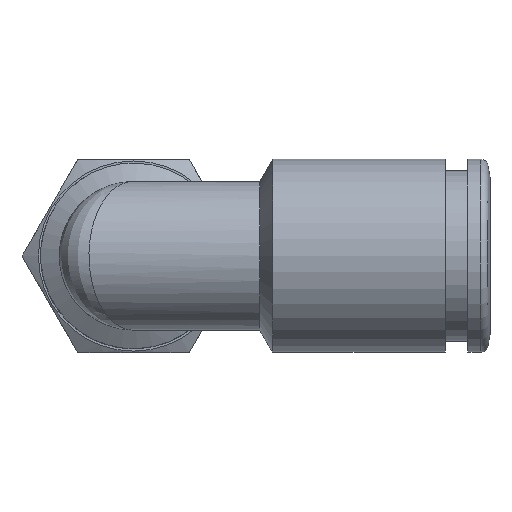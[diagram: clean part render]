
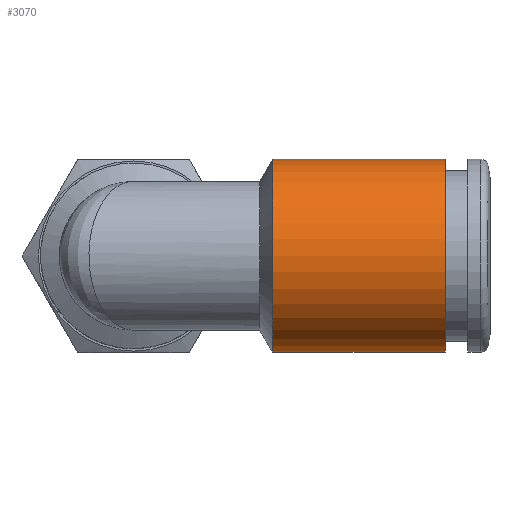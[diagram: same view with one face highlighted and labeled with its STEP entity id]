
A CAD part, top view. The second image highlights one B-rep face of the part: STEP entity #3070.
In plain terms, the highlighted cylindrical face has radius 6.5 mm (diameter 13 mm), a full revolution.
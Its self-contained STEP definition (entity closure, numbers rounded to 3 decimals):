
#3070=ADVANCED_FACE('', (#3080,#3090), #3100, .T.);
#8610=AXIS2_PLACEMENT_3D('Ax2Pl3d', #8620, #8630, #8640);
#9570=AXIS2_PLACEMENT_3D('Ax2Pl3d', #9580, #9590, #9600);
#9610=AXIS2_PLACEMENT_3D('Ax2Pl3d', #9620, #9630, #9640);
#8620=CARTESIAN_POINT('HicPkt', (31.688,8.803,
26.032));
#25420=CARTESIAN_POINT('', (31.688,8.803,32.532));
#9580=CARTESIAN_POINT('HicPkt', (20.054,8.803,
26.032));
#25560=CARTESIAN_POINT('', (20.054,8.803,32.532));
#9620=CARTESIAN_POINT('HicPkt', (20.054,8.803,
26.032));
#26180=CIRCLE('Circle', #8610, 6.5);
#26280=CIRCLE('Circle', #9570, 6.5);
#3100=CYLINDRICAL_SURFACE('Zyl', #9610, 6.5);
#8630=DIRECTION('Axis', (-1.,0.,0.))
;
#8640=DIRECTION('RefDirection', (0.,
0.,-1.));
#9590=DIRECTION('Axis', (-1.,0.,0.))
;
#9600=DIRECTION('RefDirection', (0.,
0.,-1.));
#9630=DIRECTION('Axis', (1.,0.,0.));
#9640=DIRECTION('RefDirection', (0.,0.,-1.));
#31270=EDGE_CURVE('', #31280, #31280, #26180, .T.);
#31650=EDGE_CURVE('', #31660, #31660, #26280, .T.);
#35220=EDGE_LOOP('Edge_loop', (#35230));
#35240=EDGE_LOOP('Edge_loop', (#35250));
#3090=FACE_BOUND('', #35240, .T.);
#3080=FACE_OUTER_BOUND('Face_outer_bound', #35220, .T.);
#35230=ORIENTED_EDGE('', *, *, #31270, .T.);
#35250=ORIENTED_EDGE('', *, *, #31650, .F.);
#31280=VERTEX_POINT('', #25420);
#31660=VERTEX_POINT('', #25560);
